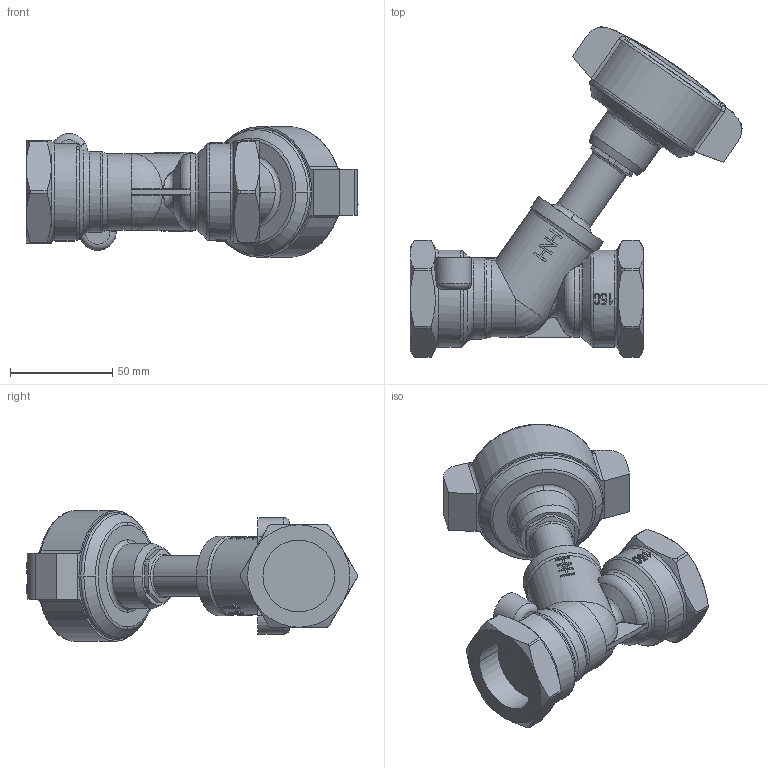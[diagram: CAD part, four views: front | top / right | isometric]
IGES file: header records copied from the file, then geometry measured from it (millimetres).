
Global section: file name: No Iges File Name specified; native system: AutoDesk Inventor R12.0; preprocessor: AutoDesk Inventor Iges Exporter R12.0; date: 20110307.144528; units: millimetre
Bounding box: 162.12 x 161.37 x 63.85 mm (x, y, z)
Volume: 323139.7 mm3; surface area: 46454.3 mm2
Topology: 1 solids, 1 shells, 702 faces, 1846 edges, 1195 vertices
Faces by surface type: plane 308, bspline 241, cylinder 82, cone 25, torus 23, revolution 21, sphere 2
